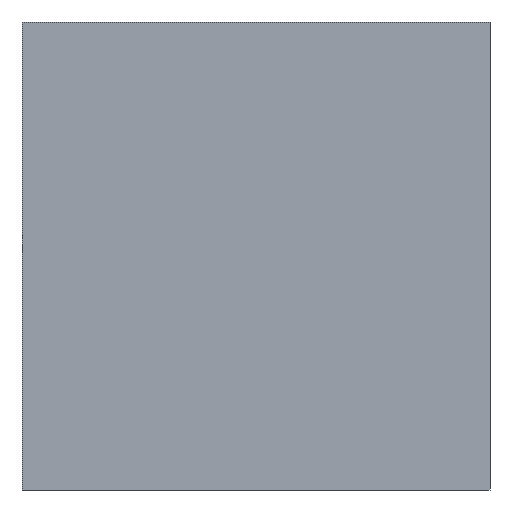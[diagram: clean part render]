
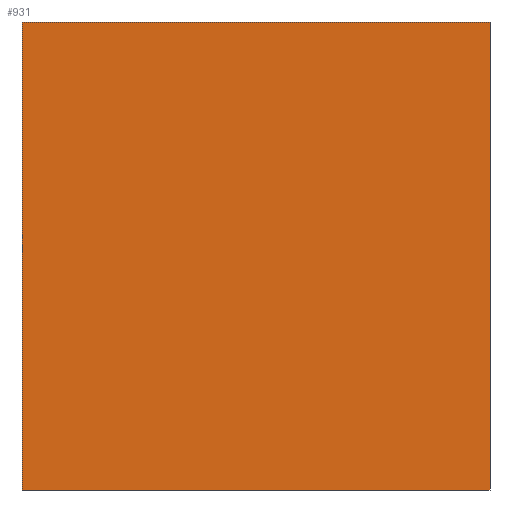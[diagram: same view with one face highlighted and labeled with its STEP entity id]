
A CAD part, left-side view. The second image highlights one B-rep face of the part: STEP entity #931.
In plain terms, the highlighted planar face has unit normal (-1, 0, 0).
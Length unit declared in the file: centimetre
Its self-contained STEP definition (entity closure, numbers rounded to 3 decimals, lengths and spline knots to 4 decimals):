
#110 = LINE ( 'NONE', #709, #195 ) ;
#121 = CARTESIAN_POINT ( 'NONE',  ( 0., 1000., 1000. ) ) ;
#149 = ORIENTED_EDGE ( 'NONE', *, *, #211, .F. ) ;
#160 = VERTEX_POINT ( 'NONE', #645 ) ;
#185 = DIRECTION ( 'NONE',  ( 0., -1., 0. ) ) ;
#195 = VECTOR ( 'NONE', #918, 100. ) ;
#211 = EDGE_CURVE ( 'NONE', #768, #764, #791, .T. ) ;
#230 = VERTEX_POINT ( 'NONE', #586 ) ;
#262 = VECTOR ( 'NONE', #185, 100. ) ;
#310 = EDGE_LOOP ( 'NONE', ( #576, #642, #149, #480 ) ) ;
#329 = LINE ( 'NONE', #334, #262 ) ;
#334 = CARTESIAN_POINT ( 'NONE',  ( 0., 1000., 0. ) ) ;
#358 = LINE ( 'NONE', #869, #762 ) ;
#379 = FACE_OUTER_BOUND ( 'NONE', #310, .T. ) ;
#413 = EDGE_CURVE ( 'NONE', #764, #230, #110, .T. ) ;
#435 = DIRECTION ( 'NONE',  ( 0., 0., -1. ) ) ;
#465 = CARTESIAN_POINT ( 'NONE',  ( 0., 0., 1000. ) ) ;
#480 = ORIENTED_EDGE ( 'NONE', *, *, #565, .T. ) ;
#504 = DIRECTION ( 'NONE',  ( 0., 0., -1. ) ) ;
#565 = EDGE_CURVE ( 'NONE', #768, #160, #358, .T. ) ;
#576 = ORIENTED_EDGE ( 'NONE', *, *, #678, .T. ) ;
#586 = CARTESIAN_POINT ( 'NONE',  ( 0., 0., 0. ) ) ;
#588 = DIRECTION ( 'NONE',  ( 1., 0., 0. ) ) ;
#642 = ORIENTED_EDGE ( 'NONE', *, *, #413, .F. ) ;
#645 = CARTESIAN_POINT ( 'NONE',  ( 0., 1000., 0. ) ) ;
#667 = CARTESIAN_POINT ( 'NONE',  ( 0., 1000., 1000. ) ) ;
#678 = EDGE_CURVE ( 'NONE', #160, #230, #329, .T. ) ;
#709 = CARTESIAN_POINT ( 'NONE',  ( 0., 0., 1000. ) ) ;
#713 = DIRECTION ( 'NONE',  ( 0., -1., 0. ) ) ;
#743 = AXIS2_PLACEMENT_3D ( 'NONE', #667, #588, #504 ) ;
#762 = VECTOR ( 'NONE', #435, 100. ) ;
#764 = VERTEX_POINT ( 'NONE', #465 ) ;
#768 = VERTEX_POINT ( 'NONE', #775 ) ;
#775 = CARTESIAN_POINT ( 'NONE',  ( 0., 1000., 1000. ) ) ;
#791 = LINE ( 'NONE', #121, #825 ) ;
#819 = PLANE ( 'NONE',  #743 ) ;
#825 = VECTOR ( 'NONE', #713, 100. ) ;
#869 = CARTESIAN_POINT ( 'NONE',  ( 0., 1000., 1000. ) ) ;
#918 = DIRECTION ( 'NONE',  ( 0., 0., -1. ) ) ;
#931 = ADVANCED_FACE ( 'NONE', ( #379 ), #819, .F. ) ;
